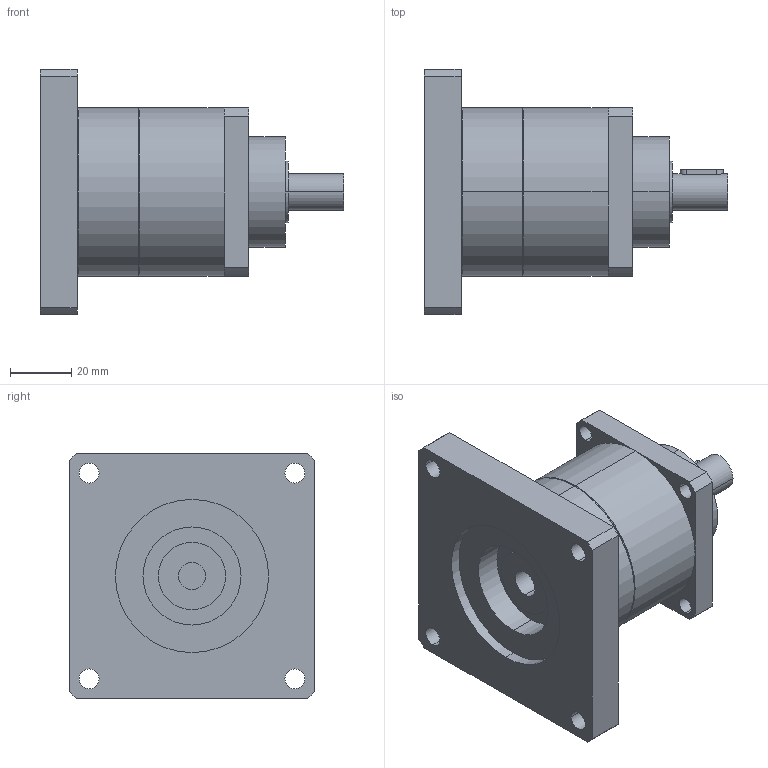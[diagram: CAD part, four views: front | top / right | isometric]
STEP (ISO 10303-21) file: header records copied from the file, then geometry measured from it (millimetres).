
FILE_DESCRIPTION(('CoCreate Modeling STEP Export'),'2;1');
FILE_NAME('GPT55_ig-3-4-5-7-10_12_B5A_9_P27.stp','2014-08-25T14:36:06',(''),(''),'CoCreate Modeling STEP processor for AP214 (Solid Model)','CoCreate Modeling 16.00C 25-Feb-2009 (C) Parametric Technology GmbH','');
FILE_SCHEMA(('AUTOMOTIVE_DESIGN { 1 0 10303 214 1 1 1 1 }'));
Length unit declared in the file: millimetre
Products named in the file (2): GPT55_ig-3-4-5-7-10_12_B5A_9_P27
Assembly tree (1 placements, depth 2):
  GPT55_ig-3-4-5-7-10_12_B5A_9_P27
    GPT55_ig-3-4-5-7-10_12_B5A_9_P27
Bounding box: 99 x 80 x 80 mm (x, y, z)
Volume: 212927.6 mm3; surface area: 33594.4 mm2
Topology: 1 solids, 1 shells, 77 faces, 204 edges, 139 vertices
Faces by surface type: cylinder 46, plane 27, cone 4
Entity records: 2515 total; most frequent: CARTESIAN_POINT 710, ORIENTED_EDGE 408, DIRECTION 318, EDGE_CURVE 204, VERTEX_POINT 139, AXIS2_PLACEMENT_3D 117, EDGE_LOOP 103, VECTOR 84
